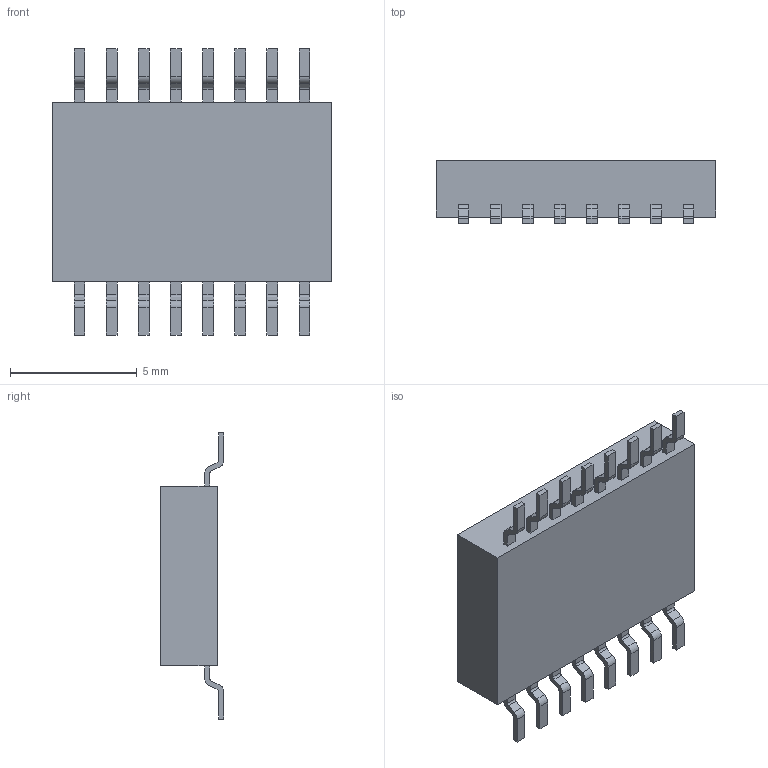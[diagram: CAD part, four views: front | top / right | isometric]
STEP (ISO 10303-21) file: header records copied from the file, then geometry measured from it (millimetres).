
FILE_DESCRIPTION (( 'STEP AP214' ), '1' );
FILE_NAME ( 'CFP127P1130X250-16L37.STEP', '2014-04-11T12:31:18', ( '' ), ( '' ), 'FPX Expert 2013', 'PCB Libraries', '' );
FILE_SCHEMA (( 'AUTOMOTIVE_DESIGN' ));
Length unit declared in the file: millimetre
Products named in the file (1): CFP127P1130X250-16L37
Bounding box: 11.02 x 2.5 x 11.3 mm (x, y, z)
Volume: 179.3 mm3; surface area: 289.2 mm2
Topology: 17 solids, 17 shells, 233 faces, 594 edges, 396 vertices
Faces by surface type: plane 167, cylinder 66
Entity records: 7893 total; most frequent: CARTESIAN_POINT 1224, DIRECTION 1194, ORIENTED_EDGE 1188, EDGE_CURVE 594, VECTOR 462, LINE 462, VERTEX_POINT 396, AXIS2_PLACEMENT_3D 366
